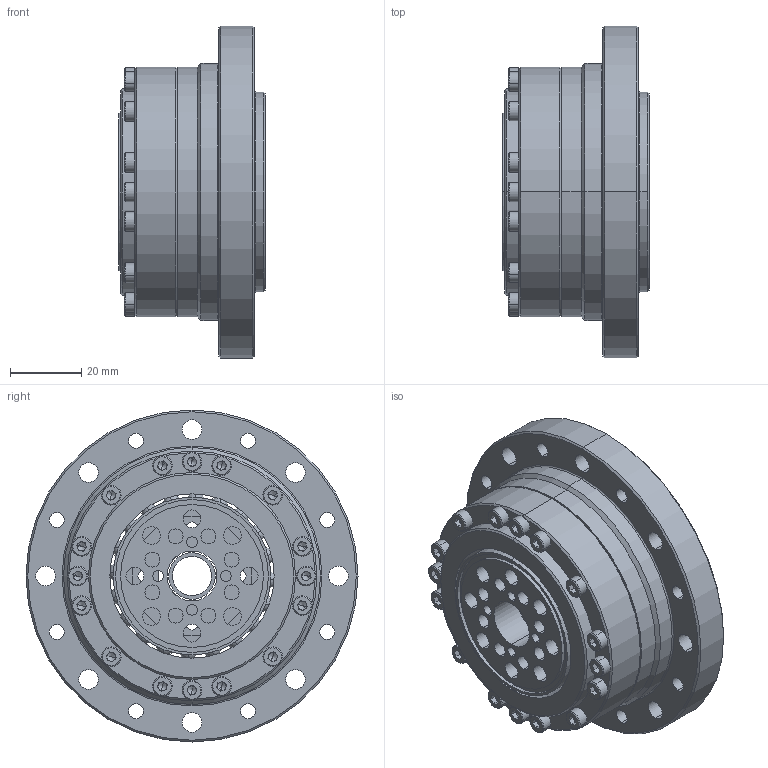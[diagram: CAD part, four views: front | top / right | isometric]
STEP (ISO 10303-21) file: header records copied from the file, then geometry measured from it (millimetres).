
FILE_DESCRIPTION (( 'STEP AP203' ), '1' );
FILE_NAME ('BCSG-20-XXX-U-¢ñ.STEP', '2019-01-15T03:32:53', ( 'User' ), ( 'China' ), 'SwSTEP 2.0', 'SolidWorks 2015', '' );
FILE_SCHEMA (( 'CONFIG_CONTROL_DESIGN' ));
Length unit declared in the file: millimetre
Products named in the file (1): BCSG-20-XXX-U-ｉ
Bounding box: 41 x 93 x 93 mm (x, y, z)
Surface area: 67271.2 mm2 (no closed solid volume)
Topology: 0 solids, 44 shells, 705 faces, 2015 edges, 1269 vertices
Faces by surface type: cylinder 225, plane 211, cone 173, torus 52, sphere 40, bspline 4
Entity records: 24293 total; most frequent: CARTESIAN_POINT 6188, DIRECTION 4103, ORIENTED_EDGE 3328, EDGE_CURVE 1883, AXIS2_PLACEMENT_3D 1655, VERTEX_POINT 1209, CIRCLE 953, EDGE_LOOP 862
